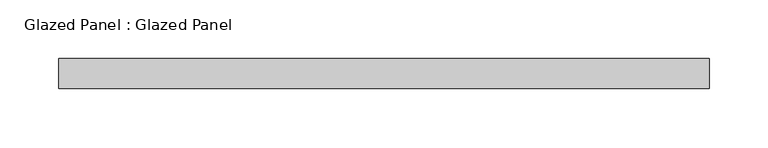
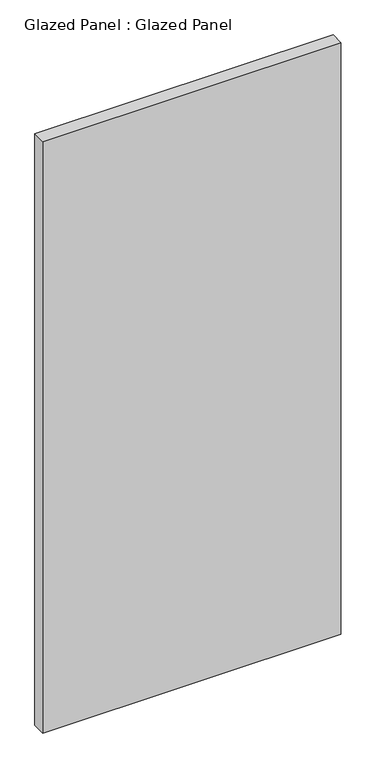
"""IFC4 building model written with IfcOpenShell, lengths in millimetres: plate geometry, Glazed Panel : Glazed Panel."""

from ifc_helpers import new_model, si_unit, origin, origin_with_axes, place, context, project, spatial, polyline, outline, extrude, source, transform, mapped, element, save


def glazed_panel_glazed_panel_a4489fb3(model_context):
    return source(origin(), model_context, "Body", "SweptSolid", [
        extrude(outline(polyline([(275.43125, 38.1), (-275.43125, 38.1), (-275.43125, 63.5), (275.43125, 63.5), (275.43125, 38.1)])), origin_with_axes(), (0.0, 0.0, 1.0), 1155.7),
    ])


if __name__ == "__main__":
    model = new_model("IFC4")
    model_context = context("Model", 3, world=origin())
    ifc_project = project(units=[si_unit("LENGTHUNIT", "METRE", prefix="MILLI")], contexts=[model_context])
    site = spatial("IfcSite", under=ifc_project)
    building = spatial("IfcBuilding", under=site)
    placement = place(None, origin())
    glazed_panel_glazed_panel_shape = glazed_panel_glazed_panel_a4489fb3(model_context)
    element("IfcPlate", 1, ObjectType="Glazed Panel : Glazed Panel", at=placement, inside=building, context=model_context, shape_type="MappedRepresentation", body=[
        mapped(glazed_panel_glazed_panel_shape, transform((0.0, 0.0, 0.0), x_axis=(1.0, 0.0, 0.0), y_axis=(0.0, 1.0, 0.0), z_axis=(0.0, 0.0, 1.0))),
    ])
    save(model, "model.ifc")
